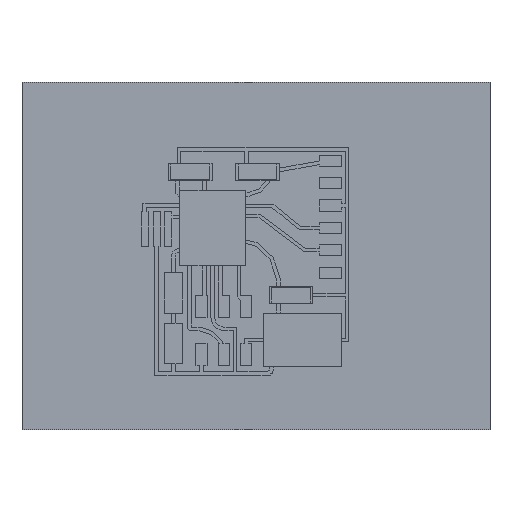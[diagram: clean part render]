
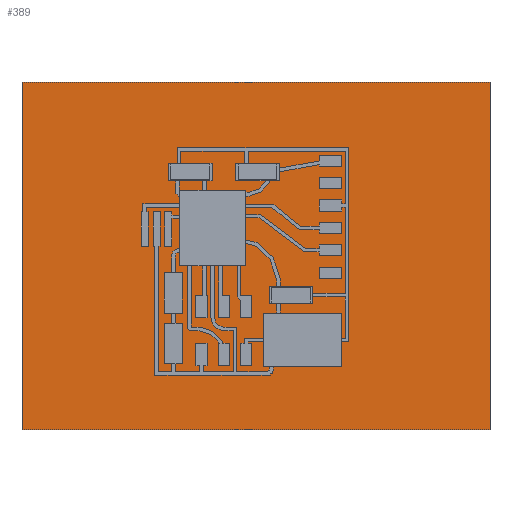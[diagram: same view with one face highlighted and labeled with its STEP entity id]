
A CAD part, top view. The second image highlights one B-rep face of the part: STEP entity #389.
In plain terms, the highlighted planar face has unit normal (0, 0, 1).
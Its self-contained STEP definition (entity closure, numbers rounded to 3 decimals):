
#75 = VERTEX_POINT('',#76);
#76 = CARTESIAN_POINT('',(31.75,8.89,1.6));
#83 = PLANE('',#84);
#84 = AXIS2_PLACEMENT_3D('',#85,#86,#87);
#85 = CARTESIAN_POINT('',(31.75,8.89,0.));
#86 = DIRECTION('',(0.,1.,0.));
#87 = DIRECTION('',(1.,0.,0.));
#95 = PLANE('',#96);
#96 = AXIS2_PLACEMENT_3D('',#97,#98,#99);
#97 = CARTESIAN_POINT('',(31.75,48.25,0.));
#98 = DIRECTION('',(1.,0.,0.));
#99 = DIRECTION('',(0.,-1.,0.));
#107 = EDGE_CURVE('',#75,#108,#110,.T.);
#108 = VERTEX_POINT('',#109);
#109 = CARTESIAN_POINT('',(84.76,8.89,1.6));
#110 = SURFACE_CURVE('',#111,(#115,#122),.PCURVE_S1.);
#111 = LINE('',#112,#113);
#112 = CARTESIAN_POINT('',(31.75,8.89,1.6));
#113 = VECTOR('',#114,1.);
#114 = DIRECTION('',(1.,0.,0.));
#115 = PCURVE('',#83,#116);
#116 = DEFINITIONAL_REPRESENTATION('',(#117),#121);
#117 = LINE('',#118,#119);
#118 = CARTESIAN_POINT('',(0.,-1.6));
#119 = VECTOR('',#120,1.);
#120 = DIRECTION('',(1.,0.));
#121 = ( GEOMETRIC_REPRESENTATION_CONTEXT(2) 
PARAMETRIC_REPRESENTATION_CONTEXT() REPRESENTATION_CONTEXT('2D SPACE',''
  ) );
#122 = PCURVE('',#123,#128);
#123 = PLANE('',#124);
#124 = AXIS2_PLACEMENT_3D('',#125,#126,#127);
#125 = CARTESIAN_POINT('',(31.75,8.89,1.6));
#126 = DIRECTION('',(0.,0.,-1.));
#127 = DIRECTION('',(-1.,0.,0.));
#128 = DEFINITIONAL_REPRESENTATION('',(#129),#133);
#129 = LINE('',#130,#131);
#130 = CARTESIAN_POINT('',(0.,0.));
#131 = VECTOR('',#132,1.);
#132 = DIRECTION('',(-1.,0.));
#133 = ( GEOMETRIC_REPRESENTATION_CONTEXT(2) 
PARAMETRIC_REPRESENTATION_CONTEXT() REPRESENTATION_CONTEXT('2D SPACE',''
  ) );
#151 = PLANE('',#152);
#152 = AXIS2_PLACEMENT_3D('',#153,#154,#155);
#153 = CARTESIAN_POINT('',(84.76,8.89,0.));
#154 = DIRECTION('',(-1.,0.,0.));
#155 = DIRECTION('',(0.,1.,0.));
#193 = EDGE_CURVE('',#108,#194,#196,.T.);
#194 = VERTEX_POINT('',#195);
#195 = CARTESIAN_POINT('',(84.76,48.25,1.6));
#196 = SURFACE_CURVE('',#197,(#201,#208),.PCURVE_S1.);
#197 = LINE('',#198,#199);
#198 = CARTESIAN_POINT('',(84.76,8.89,1.6));
#199 = VECTOR('',#200,1.);
#200 = DIRECTION('',(0.,1.,0.));
#201 = PCURVE('',#151,#202);
#202 = DEFINITIONAL_REPRESENTATION('',(#203),#207);
#203 = LINE('',#204,#205);
#204 = CARTESIAN_POINT('',(0.,-1.6));
#205 = VECTOR('',#206,1.);
#206 = DIRECTION('',(1.,0.));
#207 = ( GEOMETRIC_REPRESENTATION_CONTEXT(2) 
PARAMETRIC_REPRESENTATION_CONTEXT() REPRESENTATION_CONTEXT('2D SPACE',''
  ) );
#208 = PCURVE('',#123,#209);
#209 = DEFINITIONAL_REPRESENTATION('',(#210),#214);
#210 = LINE('',#211,#212);
#211 = CARTESIAN_POINT('',(-53.01,0.));
#212 = VECTOR('',#213,1.);
#213 = DIRECTION('',(0.,1.));
#214 = ( GEOMETRIC_REPRESENTATION_CONTEXT(2) 
PARAMETRIC_REPRESENTATION_CONTEXT() REPRESENTATION_CONTEXT('2D SPACE',''
  ) );
#232 = PLANE('',#233);
#233 = AXIS2_PLACEMENT_3D('',#234,#235,#236);
#234 = CARTESIAN_POINT('',(84.76,48.25,0.));
#235 = DIRECTION('',(0.,-1.,0.));
#236 = DIRECTION('',(-1.,0.,0.));
#269 = EDGE_CURVE('',#194,#270,#272,.T.);
#270 = VERTEX_POINT('',#271);
#271 = CARTESIAN_POINT('',(31.75,48.25,1.6));
#272 = SURFACE_CURVE('',#273,(#277,#284),.PCURVE_S1.);
#273 = LINE('',#274,#275);
#274 = CARTESIAN_POINT('',(84.76,48.25,1.6));
#275 = VECTOR('',#276,1.);
#276 = DIRECTION('',(-1.,0.,0.));
#277 = PCURVE('',#232,#278);
#278 = DEFINITIONAL_REPRESENTATION('',(#279),#283);
#279 = LINE('',#280,#281);
#280 = CARTESIAN_POINT('',(0.,-1.6));
#281 = VECTOR('',#282,1.);
#282 = DIRECTION('',(1.,0.));
#283 = ( GEOMETRIC_REPRESENTATION_CONTEXT(2) 
PARAMETRIC_REPRESENTATION_CONTEXT() REPRESENTATION_CONTEXT('2D SPACE',''
  ) );
#284 = PCURVE('',#123,#285);
#285 = DEFINITIONAL_REPRESENTATION('',(#286),#290);
#286 = LINE('',#287,#288);
#287 = CARTESIAN_POINT('',(-53.01,39.36));
#288 = VECTOR('',#289,1.);
#289 = DIRECTION('',(1.,0.));
#290 = ( GEOMETRIC_REPRESENTATION_CONTEXT(2) 
PARAMETRIC_REPRESENTATION_CONTEXT() REPRESENTATION_CONTEXT('2D SPACE',''
  ) );
#340 = EDGE_CURVE('',#270,#75,#341,.T.);
#341 = SURFACE_CURVE('',#342,(#346,#353),.PCURVE_S1.);
#342 = LINE('',#343,#344);
#343 = CARTESIAN_POINT('',(31.75,48.25,1.6));
#344 = VECTOR('',#345,1.);
#345 = DIRECTION('',(0.,-1.,0.));
#346 = PCURVE('',#95,#347);
#347 = DEFINITIONAL_REPRESENTATION('',(#348),#352);
#348 = LINE('',#349,#350);
#349 = CARTESIAN_POINT('',(0.,-1.6));
#350 = VECTOR('',#351,1.);
#351 = DIRECTION('',(1.,0.));
#352 = ( GEOMETRIC_REPRESENTATION_CONTEXT(2) 
PARAMETRIC_REPRESENTATION_CONTEXT() REPRESENTATION_CONTEXT('2D SPACE',''
  ) );
#353 = PCURVE('',#123,#354);
#354 = DEFINITIONAL_REPRESENTATION('',(#355),#359);
#355 = LINE('',#356,#357);
#356 = CARTESIAN_POINT('',(0.,39.36));
#357 = VECTOR('',#358,1.);
#358 = DIRECTION('',(0.,-1.));
#359 = ( GEOMETRIC_REPRESENTATION_CONTEXT(2) 
PARAMETRIC_REPRESENTATION_CONTEXT() REPRESENTATION_CONTEXT('2D SPACE',''
  ) );
#389 = ADVANCED_FACE('',(#390),#123,.F.);
#390 = FACE_BOUND('',#391,.T.);
#391 = EDGE_LOOP('',(#392,#393,#394,#395));
#392 = ORIENTED_EDGE('',*,*,#107,.T.);
#393 = ORIENTED_EDGE('',*,*,#193,.T.);
#394 = ORIENTED_EDGE('',*,*,#269,.T.);
#395 = ORIENTED_EDGE('',*,*,#340,.T.);
